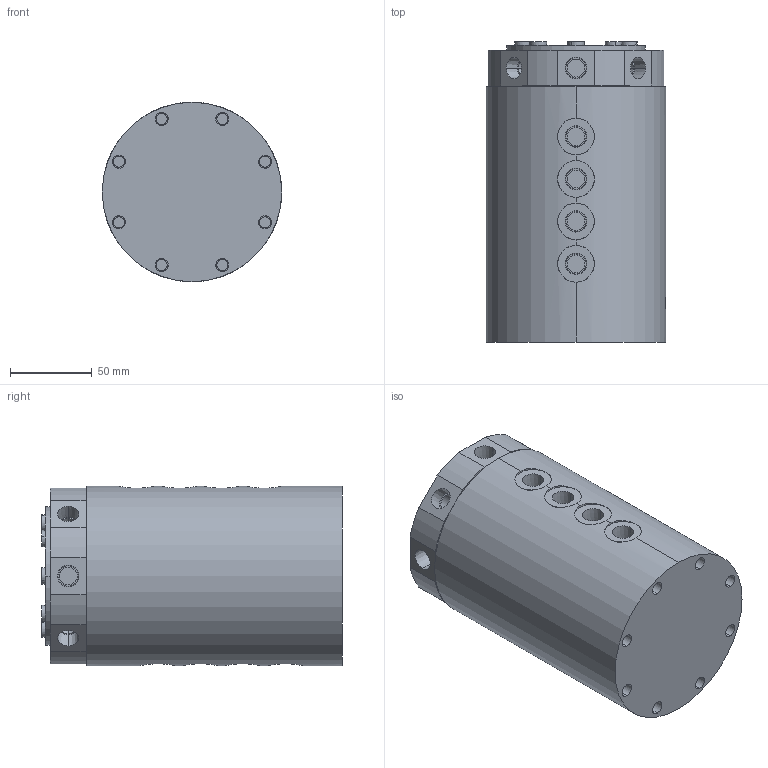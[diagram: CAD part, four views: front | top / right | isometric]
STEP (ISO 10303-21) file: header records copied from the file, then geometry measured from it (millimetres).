
FILE_DESCRIPTION((' '),'2;1');
FILE_NAME( 'PTMA08.x_t.stp', '2025-01-06T11:27:58', (' '), ('--- Datakit www.datakit.com---'), ' Datakit CrossCadWare V2024.1 Dec 21 2023', 'Mastercam 2025', ' ');
FILE_SCHEMA(('AUTOMOTIVE_DESIGN { 1 0 10303 214 1 1 1 1 }'));
Length unit declared in the file: millimetre
Products named in the file (1): PTMA08
Bounding box: 110 x 184.23 x 110 mm (x, y, z)
Volume: 1657522.7 mm3; surface area: 124716.6 mm2
Topology: 10 solids, 10 shells, 418 faces, 945 edges, 639 vertices
Faces by surface type: plane 176, cylinder 160, cone 82
Entity records: 13203 total; most frequent: CARTESIAN_POINT 3116, DIRECTION 2208, ORIENTED_EDGE 1890, EDGE_CURVE 945, AXIS2_PLACEMENT_3D 895, VERTEX_POINT 639, EDGE_LOOP 526, CIRCLE 476
